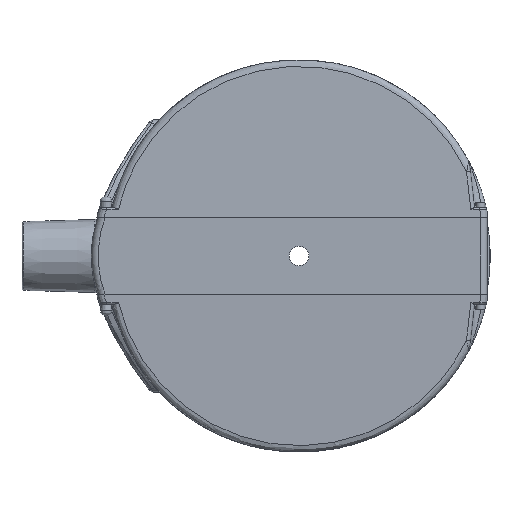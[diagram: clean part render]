
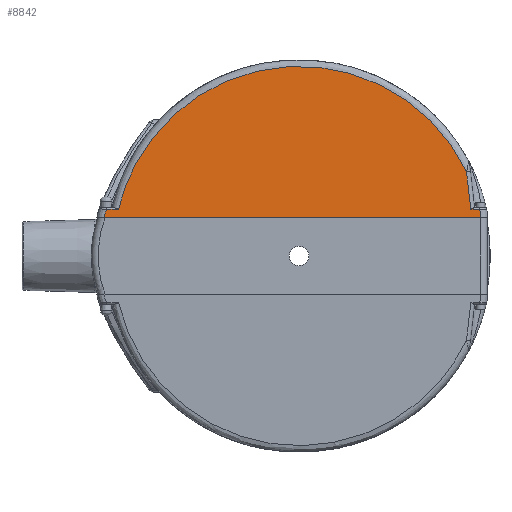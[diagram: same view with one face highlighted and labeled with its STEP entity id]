
A CAD part, left-side view. The second image highlights one B-rep face of the part: STEP entity #8842.
In plain terms, the highlighted planar face has unit normal (-1, 0, 0.026).
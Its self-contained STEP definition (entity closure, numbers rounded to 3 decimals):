
#5725=ELLIPSE('',#17772,21.507,21.5);
#5740=ELLIPSE('',#17852,16.506,16.5);
#5741=ELLIPSE('',#17853,94.732,94.7);
#5971=LINE('',#33137,#6325);
#5994=LINE('',#37293,#6354);
#6325=VECTOR('',#19269,1.);
#6354=VECTOR('',#19477,1.);
#7384=B_SPLINE_CURVE_WITH_KNOTS('',3,(#33111,#33112,#33113,#33114,#33115,
#33116,#33117),.UNSPECIFIED.,.F.,.F.,(4,3,4),(0.,0.325,1.),
 .UNSPECIFIED.);
#7386=B_SPLINE_CURVE_WITH_KNOTS('',3,(#33155,#33156,#33157,#33158),
 .UNSPECIFIED.,.F.,.F.,(4,4),(0.,1.),.UNSPECIFIED.);
#7387=B_SPLINE_CURVE_WITH_KNOTS('',3,(#33162,#33163,#33164,#33165),
 .UNSPECIFIED.,.F.,.F.,(4,4),(0.,1.),.UNSPECIFIED.);
#7580=B_SPLINE_CURVE_WITH_KNOTS('',3,(#36420,#36421,#36422,#36423),
 .UNSPECIFIED.,.F.,.F.,(4,4),(0.,1.),.UNSPECIFIED.);
#8842=ADVANCED_FACE('',(#9719),#9054,.T.);
#9054=PLANE('',#17854);
#9719=FACE_OUTER_BOUND('',#10568,.T.);
#10568=EDGE_LOOP('',(#13714,#13715,#13716,#13717,#13718,#13719,#13720,#13721,
#13722));
#13714=ORIENTED_EDGE('',*,*,#16894,.T.);
#13715=ORIENTED_EDGE('',*,*,#16845,.T.);
#13716=ORIENTED_EDGE('',*,*,#16595,.T.);
#13717=ORIENTED_EDGE('',*,*,#16593,.T.);
#13718=ORIENTED_EDGE('',*,*,#16591,.T.);
#13719=ORIENTED_EDGE('',*,*,#16589,.T.);
#13720=ORIENTED_EDGE('',*,*,#16587,.T.);
#13721=ORIENTED_EDGE('',*,*,#16895,.T.);
#13722=ORIENTED_EDGE('',*,*,#16896,.T.);
#14852=VERTEX_POINT('',#30605);
#14889=VERTEX_POINT('',#31003);
#14997=VERTEX_POINT('',#32732);
#15021=VERTEX_POINT('',#33110);
#15022=VERTEX_POINT('',#33118);
#15023=VERTEX_POINT('',#33154);
#15160=VERTEX_POINT('',#36424);
#15187=VERTEX_POINT('',#37290);
#15188=VERTEX_POINT('',#37292);
#16587=EDGE_CURVE('',#15022,#15021,#7384,.T.);
#16589=EDGE_CURVE('',#14852,#15022,#5971,.T.);
#16591=EDGE_CURVE('',#14889,#14852,#5725,.T.);
#16593=EDGE_CURVE('',#15023,#14889,#7386,.T.);
#16595=EDGE_CURVE('',#14997,#15023,#7387,.T.);
#16845=EDGE_CURVE('',#15160,#14997,#7580,.T.);
#16894=EDGE_CURVE('',#15187,#15160,#5740,.T.);
#16895=EDGE_CURVE('',#15021,#15188,#5741,.T.);
#16896=EDGE_CURVE('',#15188,#15187,#5994,.T.);
#17772=AXIS2_PLACEMENT_3D('',#33140,#19274,#19275);
#17852=AXIS2_PLACEMENT_3D('',#37289,#19473,#19474);
#17853=AXIS2_PLACEMENT_3D('',#37291,#19475,#19476);
#17854=AXIS2_PLACEMENT_3D('',#37294,#19478,#19479);
#19269=DIRECTION('',(0.,1.,0.));
#19274=DIRECTION('',(-1.,0.,0.026));
#19275=DIRECTION('',(-0.026,0.,-1.));
#19473=DIRECTION('',(-1.,0.,0.026));
#19474=DIRECTION('',(-0.026,0.,-1.));
#19475=DIRECTION('',(-1.,0.,0.026));
#19476=DIRECTION('',(0.026,0.,1.));
#19477=DIRECTION('',(0.,1.,0.));
#19478=DIRECTION('',(-1.,0.,0.026));
#19479=DIRECTION('',(-0.026,0.,-1.));
#30605=CARTESIAN_POINT('',(-32.892,-92.184,23.77));
#31003=CARTESIAN_POINT('',(-32.999,-92.701,19.5));
#32732=CARTESIAN_POINT('',(-33.002,99.028,19.5));
#33110=CARTESIAN_POINT('',(-32.39,-85.444,42.926));
#33111=CARTESIAN_POINT('',(-32.892,-87.68,23.77));
#33112=CARTESIAN_POINT('',(-32.838,-87.424,25.843));
#33113=CARTESIAN_POINT('',(-32.783,-87.175,27.918));
#33114=CARTESIAN_POINT('',(-32.729,-86.93,29.993));
#33115=CARTESIAN_POINT('',(-32.616,-86.42,34.302));
#33116=CARTESIAN_POINT('',(-32.503,-85.928,38.614));
#33117=CARTESIAN_POINT('',(-32.39,-85.444,42.926));
#33118=CARTESIAN_POINT('',(-32.892,-87.68,23.77));
#33137=CARTESIAN_POINT('',(-32.892,3.5,23.77));
#33140=CARTESIAN_POINT('',(-33.015,-71.206,19.062));
#33154=CARTESIAN_POINT('',(-33.002,-92.5,19.5));
#33155=CARTESIAN_POINT('',(-33.004,-92.5,19.5));
#33156=CARTESIAN_POINT('',(-33.004,-92.567,19.5));
#33157=CARTESIAN_POINT('',(-33.004,-92.634,19.5));
#33158=CARTESIAN_POINT('',(-33.004,-92.701,19.5));
#33162=CARTESIAN_POINT('',(-33.004,99.028,19.5));
#33163=CARTESIAN_POINT('',(-33.004,35.186,19.5));
#33164=CARTESIAN_POINT('',(-33.004,-28.657,19.5));
#33165=CARTESIAN_POINT('',(-33.004,-92.5,19.5));
#36420=CARTESIAN_POINT('',(-33.004,99.656,19.5));
#36421=CARTESIAN_POINT('',(-33.004,99.447,19.5));
#36422=CARTESIAN_POINT('',(-33.004,99.238,19.5));
#36423=CARTESIAN_POINT('',(-33.004,99.028,19.5));
#36424=CARTESIAN_POINT('',(-33.004,99.656,19.5));
#37289=CARTESIAN_POINT('',(-33.09,83.491,16.194));
#37290=CARTESIAN_POINT('',(-32.892,98.149,23.77));
#37291=CARTESIAN_POINT('',(-33.46,0.,2.092));
#37292=CARTESIAN_POINT('',(-32.892,92.185,23.77));
#37293=CARTESIAN_POINT('',(-32.892,97.748,23.77));
#37294=CARTESIAN_POINT('',(-33.004,3.5,19.5));
